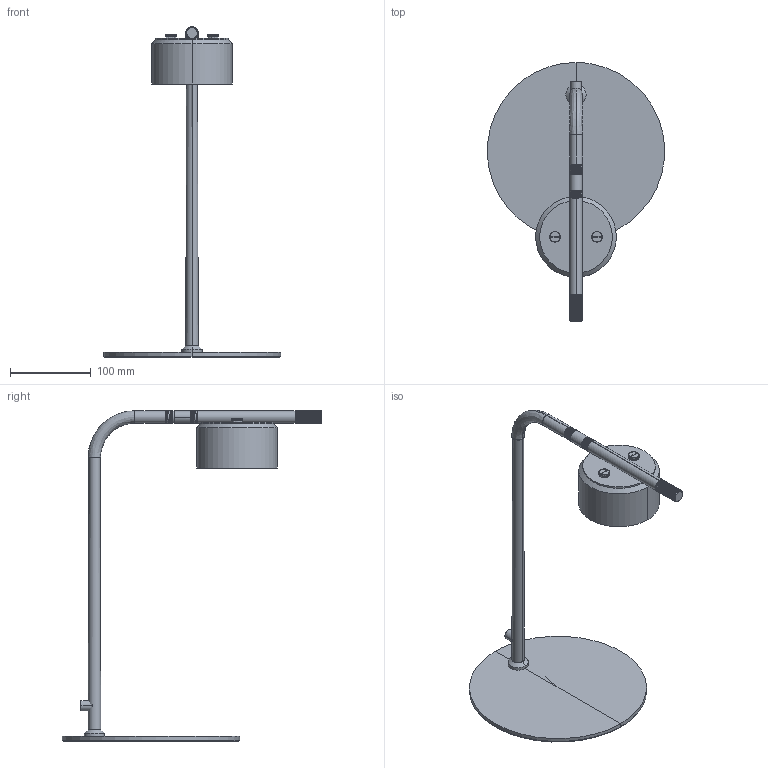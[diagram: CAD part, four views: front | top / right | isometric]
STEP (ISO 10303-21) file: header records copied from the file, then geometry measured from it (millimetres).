
FILE_DESCRIPTION (( 'STEP AP214' ), '1' );
FILE_NAME ('HOREO_S1367.STEP', '2026-06-16T08:46:01', ( '' ), ( '' ), 'SwSTEP 2.0', 'SolidWorks 2023', '' );
FILE_SCHEMA (( 'AUTOMOTIVE_DESIGN' ));
Length unit declared in the file: millimetre
Products named in the file (1): HOREO_S1367
Bounding box: 219.7 x 322 x 409.95 mm (x, y, z)
Surface area: 307857.2 mm2 (no closed solid volume)
Topology: 0 solids, 21 shells, 695 faces, 1970 edges, 1291 vertices
Faces by surface type: bspline 401, plane 294
Entity records: 44989 total; most frequent: CARTESIAN_POINT 32649, ORIENTED_EDGE 3884, EDGE_CURVE 1942, B_SPLINE_CURVE_WITH_KNOTS 1524, VERTEX_POINT 1291, EDGE_LOOP 717, FACE_OUTER_BOUND 695, ADVANCED_FACE 695
